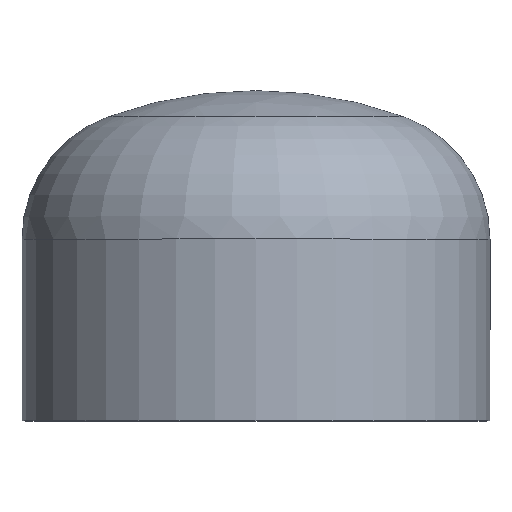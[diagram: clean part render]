
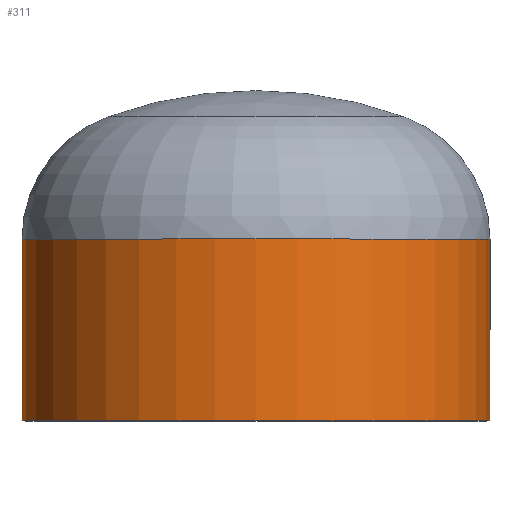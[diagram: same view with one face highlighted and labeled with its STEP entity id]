
A CAD part, top view. The second image highlights one B-rep face of the part: STEP entity #311.
In plain terms, the highlighted cylindrical face has radius 109.55 mm (diameter 219.1 mm), a partial arc.
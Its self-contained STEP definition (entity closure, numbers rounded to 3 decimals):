
#10 = EDGE_CURVE ( 'NONE', #32, #189, #220, .T. ) ;
#11 = EDGE_CURVE ( 'NONE', #153, #93, #353, .T. ) ;
#12 = EDGE_CURVE ( 'NONE', #189, #93, #117, .T. ) ;
#21 = CYLINDRICAL_SURFACE ( 'NONE', #196, 109.55 ) ;
#32 = VERTEX_POINT ( 'NONE', #111 ) ;
#40 = AXIS2_PLACEMENT_3D ( 'NONE', #228, #214, #212 ) ;
#45 = EDGE_LOOP ( 'NONE', ( #138, #71, #103, #147 ) ) ;
#54 = DIRECTION ( 'NONE',  ( 1., 0., 0. ) ) ;
#68 = AXIS2_PLACEMENT_3D ( 'NONE', #190, #187, #184 ) ;
#71 = ORIENTED_EDGE ( 'NONE', *, *, #12, .T. ) ;
#93 = VERTEX_POINT ( 'NONE', #326 ) ;
#103 = ORIENTED_EDGE ( 'NONE', *, *, #11, .F. ) ;
#111 = CARTESIAN_POINT ( 'NONE',  ( 109.55, 85., 0. ) ) ;
#117 = LINE ( 'NONE', #191, #278 ) ;
#119 = CARTESIAN_POINT ( 'NONE',  ( 0., 0., 0. ) ) ;
#138 = ORIENTED_EDGE ( 'NONE', *, *, #10, .T. ) ;
#147 = ORIENTED_EDGE ( 'NONE', *, *, #365, .F. ) ;
#153 = VERTEX_POINT ( 'NONE', #200 ) ;
#163 = CARTESIAN_POINT ( 'NONE',  ( -109.55, 85., 0. ) ) ;
#173 = CARTESIAN_POINT ( 'NONE',  ( 109.55, 0., 0. ) ) ;
#184 = DIRECTION ( 'NONE',  ( 1., 0., 0. ) ) ;
#187 = DIRECTION ( 'NONE',  ( 0., -1., 0. ) ) ;
#189 = VERTEX_POINT ( 'NONE', #163 ) ;
#190 = CARTESIAN_POINT ( 'NONE',  ( 0., 0., 0. ) ) ;
#191 = CARTESIAN_POINT ( 'NONE',  ( -109.55, 0., 0. ) ) ;
#196 = AXIS2_PLACEMENT_3D ( 'NONE', #119, #338, #54 ) ;
#200 = CARTESIAN_POINT ( 'NONE',  ( 109.55, 0., 0. ) ) ;
#212 = DIRECTION ( 'NONE',  ( 1., 0., 0. ) ) ;
#214 = DIRECTION ( 'NONE',  ( 0., -1., 0. ) ) ;
#220 = CIRCLE ( 'NONE', #40, 109.55 ) ;
#225 = VECTOR ( 'NONE', #366, 1000. ) ;
#228 = CARTESIAN_POINT ( 'NONE',  ( 0., 85., 0. ) ) ;
#265 = DIRECTION ( 'NONE',  ( 0., -1., 0. ) ) ;
#278 = VECTOR ( 'NONE', #265, 1000. ) ;
#284 = LINE ( 'NONE', #173, #225 ) ;
#298 = FACE_OUTER_BOUND ( 'NONE', #45, .T. ) ;
#311 = ADVANCED_FACE ( 'NONE', ( #298 ), #21, .T. ) ;
#326 = CARTESIAN_POINT ( 'NONE',  ( -109.55, 0., 0. ) ) ;
#338 = DIRECTION ( 'NONE',  ( 0., -1., 0. ) ) ;
#353 = CIRCLE ( 'NONE', #68, 109.55 ) ;
#365 = EDGE_CURVE ( 'NONE', #32, #153, #284, .T. ) ;
#366 = DIRECTION ( 'NONE',  ( 0., -1., 0. ) ) ;
